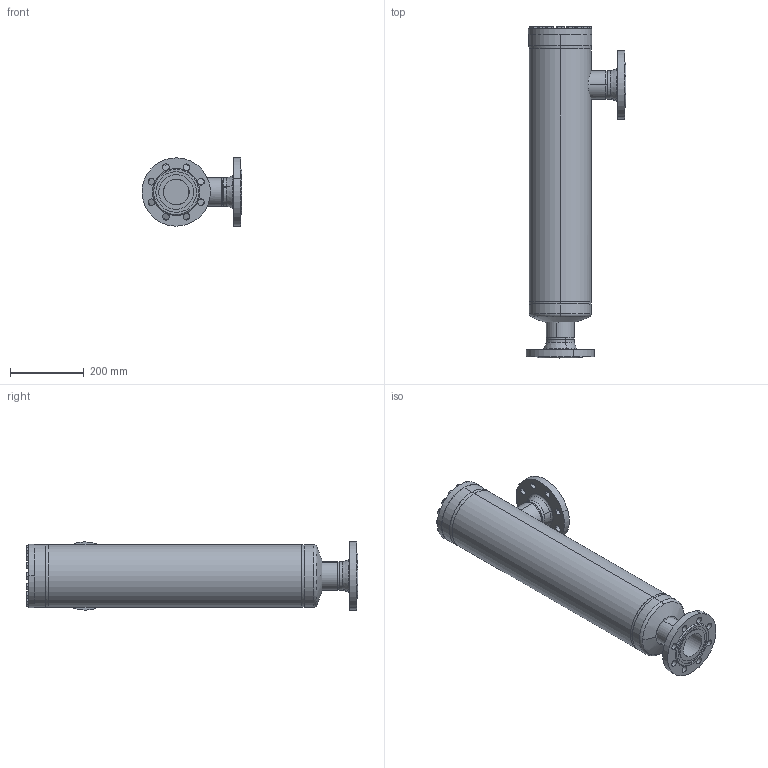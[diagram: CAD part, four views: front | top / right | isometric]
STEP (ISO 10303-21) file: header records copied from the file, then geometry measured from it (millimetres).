
FILE_DESCRIPTION (( 'STEP AP214' ), '1' );
FILE_NAME ('FT56720D17-DN65-8-4_DIN-FL-N_PS40.STEP', '2010-09-13T08:56:39', ( 'Eckhard Grams' ), ( 'AWP Kälte Klima Armaturen GmbH' ), 'SwSTEP 2.0', 'SolidWorks 2002296', '' );
FILE_SCHEMA (( 'AUTOMOTIVE_DESIGN' ));
Length unit declared in the file: millimetre
Products named in the file (18): FT56720D17-DN65-8-4_DIN-FL-N_PS40; FT56700D17-DN65-8-4_PS40_Standard; Geh-kpl-FT-DN65-8-4_PS40_Standard; Gehäuse-FT-DN50-80_PS40_65-4; Rohrstutzen-FT-DN20-80_DN 65; FT Boden-Führungsrohr DN65_PS25_Standard; Boden-FT-DN20-80_DN 50-3 bis 65 PN25; bead-Bo-Fü-50-65_Standard; Führungsrohr-FT-DN65_Standard; Kopfstück-FT-DN50-80_PS40_Standard; bead65-Geh-Ko4_Standard; bead65-Geh-Bo1_Standard; FT Deckel-Schrauben-DN50-80_PS40_Standard; Deckel56700E17-DN50-80_PS40_Standard; Sechskantschraube-DIN933_M12x 30; Flansch-DIN2635-Nut_PS40_DIN-Flansch-DN065_PS40-Nut; bead56720-65-8b_Standard; bead56720-65-8a_Standard
Assembly tree (33 placements, depth 5):
  FT56720D17-DN65-8-4_DIN-FL-N_PS40
    FT56700D17-DN65-8-4_PS40_Standard
      FT Deckel-Schrauben-DN50-80_PS40_Standard
        Sechskantschraube-DIN933_M12x 30  x16
        Deckel56700E17-DN50-80_PS40_Standard
      Geh-kpl-FT-DN65-8-4_PS40_Standard
        Rohrstutzen-FT-DN20-80_DN 65
        bead65-Geh-Bo1_Standard
        Gehäuse-FT-DN50-80_PS40_65-4
        FT Boden-Führungsrohr DN65_PS25_Standard
          Boden-FT-DN20-80_DN 50-3 bis 65 PN25
          bead-Bo-Fü-50-65_Standard
          Führungsrohr-FT-DN65_Standard
        Kopfstück-FT-DN50-80_PS40_Standard
        bead65-Geh-Ko4_Standard
    bead56720-65-8b_Standard
    Flansch-DIN2635-Nut_PS40_DIN-Flansch-DN065_PS40-Nut  x2
    bead56720-65-8a_Standard
Bounding box: 270.41 x 898.26 x 184.82 mm (x, y, z)
Volume: 4288733.4 mm3; surface area: 1206353.6 mm2
Topology: 29 solids, 29 shells, 746 faces, 1690 edges, 1006 vertices
Faces by surface type: cone 306, cylinder 215, plane 191, bspline 20, torus 10, sphere 4
Entity records: 17198 total; most frequent: CARTESIAN_POINT 8591, DIRECTION 1742, ORIENTED_EDGE 1520, EDGE_CURVE 760, AXIS2_PLACEMENT_3D 749, VERTEX_POINT 480, EDGE_LOOP 428, CIRCLE 398
